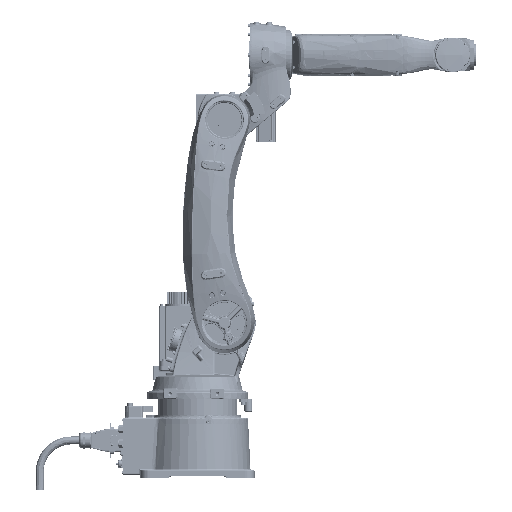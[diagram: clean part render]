
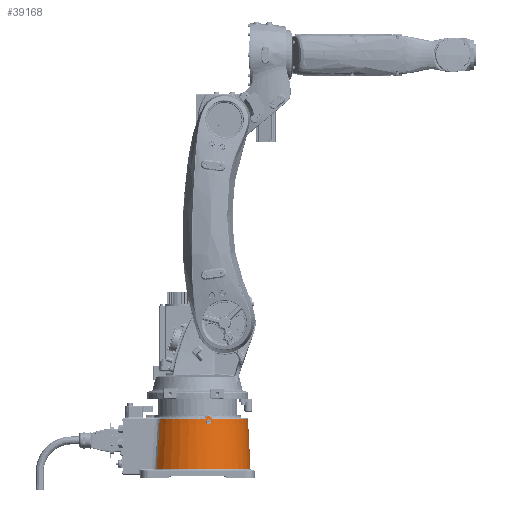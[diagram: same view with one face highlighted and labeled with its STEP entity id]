
A CAD part, front view. The second image highlights one B-rep face of the part: STEP entity #39168.
In plain terms, the highlighted toroidal (fillet/blend) face has major radius 2165 mm and minor radius 2005 mm.
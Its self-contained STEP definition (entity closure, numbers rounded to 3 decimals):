
#3922=TOROIDAL_SURFACE('',#149639,2165.,2005.);
#6012=B_SPLINE_CURVE_WITH_KNOTS('',3,(#209172,#209173,#209174,#209175,#209176,
#209177),.UNSPECIFIED.,.F.,.F.,(4,2,4),(0.,0.5,1.),.UNSPECIFIED.);
#6014=B_SPLINE_CURVE_WITH_KNOTS('',3,(#209215,#209216,#209217,#209218,#209219,
#209220,#209221,#209222,#209223,#209224),.UNSPECIFIED.,.F.,.F.,(4,2,2,2,
4),(0.,0.25,0.5,0.75,1.),.UNSPECIFIED.);
#6019=B_SPLINE_CURVE_WITH_KNOTS('',3,(#209318,#209319,#209320,#209321,#209322,
#209323,#209324,#209325),.UNSPECIFIED.,.F.,.F.,(4,2,2,4),(0.,0.5,0.75,1.),
 .UNSPECIFIED.);
#6046=B_SPLINE_CURVE_WITH_KNOTS('',3,(#210525,#210526,#210527,#210528),
 .UNSPECIFIED.,.F.,.F.,(4,4),(0.,1.),.UNSPECIFIED.);
#6047=B_SPLINE_CURVE_WITH_KNOTS('',3,(#210543,#210544,#210545,#210546),
 .UNSPECIFIED.,.F.,.F.,(4,4),(0.,1.),.UNSPECIFIED.);
#6050=B_SPLINE_CURVE_WITH_KNOTS('',3,(#210667,#210668,#210669,#210670),
 .UNSPECIFIED.,.F.,.F.,(4,4),(0.,1.),.UNSPECIFIED.);
#6052=B_SPLINE_CURVE_WITH_KNOTS('',3,(#210688,#210689,#210690,#210691),
 .UNSPECIFIED.,.F.,.F.,(4,4),(0.,1.),.UNSPECIFIED.);
#6054=B_SPLINE_CURVE_WITH_KNOTS('',3,(#210816,#210817,#210818,#210819,#210820,
#210821,#210822,#210823,#210824,#210825,#210826,#210827,#210828,#210829,
#210830,#210831,#210832,#210833),.UNSPECIFIED.,.T.,.F.,(2,2,2,2,2,2,2,2,
2,2,2),(-0.125,0.,0.125,0.25,0.375,0.5,0.625,0.75,0.875,1.,1.125),
 .UNSPECIFIED.);
#39168=ADVANCED_FACE('',(#50417,#50418),#3922,.F.);
#50417=FACE_BOUND('',#53197,.T.);
#50418=FACE_BOUND('',#53198,.T.);
#53197=EDGE_LOOP('',(#67164,#67165,#67166,#67167,#67168,#67169,#67170,#67171,
#67172,#67173));
#53198=EDGE_LOOP('',(#67174));
#67164=ORIENTED_EDGE('',*,*,#121506,.T.);
#67165=ORIENTED_EDGE('',*,*,#121512,.T.);
#67166=ORIENTED_EDGE('',*,*,#121785,.T.);
#67167=ORIENTED_EDGE('',*,*,#121765,.T.);
#67168=ORIENTED_EDGE('',*,*,#121767,.T.);
#67169=ORIENTED_EDGE('',*,*,#121771,.T.);
#67170=ORIENTED_EDGE('',*,*,#121758,.T.);
#67171=ORIENTED_EDGE('',*,*,#121760,.T.);
#67172=ORIENTED_EDGE('',*,*,#121786,.T.);
#67173=ORIENTED_EDGE('',*,*,#121502,.T.);
#67174=ORIENTED_EDGE('',*,*,#121814,.T.);
#107218=VERTEX_POINT('',#209178);
#107219=VERTEX_POINT('',#209179);
#107222=VERTEX_POINT('',#209214);
#107224=VERTEX_POINT('',#209317);
#107361=VERTEX_POINT('',#210492);
#107363=VERTEX_POINT('',#210524);
#107364=VERTEX_POINT('',#210542);
#107365=VERTEX_POINT('',#210612);
#107366=VERTEX_POINT('',#210666);
#107367=VERTEX_POINT('',#210687);
#107388=VERTEX_POINT('',#210834);
#121502=EDGE_CURVE('',#107218,#107219,#6012,.T.);
#121506=EDGE_CURVE('',#107219,#107222,#6014,.T.);
#121512=EDGE_CURVE('',#107222,#107224,#6019,.T.);
#121758=EDGE_CURVE('',#107361,#107363,#6046,.T.);
#121760=EDGE_CURVE('',#107363,#107364,#6047,.T.);
#121765=EDGE_CURVE('',#107365,#107366,#6050,.T.);
#121767=EDGE_CURVE('',#107366,#107367,#6052,.T.);
#121771=EDGE_CURVE('',#107367,#107361,#141475,.T.);
#121785=EDGE_CURVE('',#107224,#107365,#141483,.T.);
#121786=EDGE_CURVE('',#107364,#107218,#141484,.T.);
#121814=EDGE_CURVE('',#107388,#107388,#6054,.T.);
#141475=CIRCLE('',#149578,167.256);
#141483=CIRCLE('',#149594,160.056);
#141484=CIRCLE('',#149596,160.056);
#149578=AXIS2_PLACEMENT_3D('',#210730,#166978,#166979);
#149594=AXIS2_PLACEMENT_3D('',#210756,#167016,#167017);
#149596=AXIS2_PLACEMENT_3D('',#210758,#167020,#167021);
#149639=AXIS2_PLACEMENT_3D('',#210883,#167146,#167147);
#166978=DIRECTION('',(0.,0.,1.));
#166979=DIRECTION('',(1.,0.,0.));
#167016=DIRECTION('',(0.,0.,-1.));
#167017=DIRECTION('',(1.,0.,0.));
#167020=DIRECTION('',(0.,0.,-1.));
#167021=DIRECTION('',(1.,0.,0.));
#167146=DIRECTION('',(0.,0.,-1.));
#167147=DIRECTION('',(-1.,0.,0.));
#209172=CARTESIAN_POINT('',(47.792,-152.754,185.037));
#209173=CARTESIAN_POINT('',(46.996,-152.997,185.863));
#209174=CARTESIAN_POINT('',(46.031,-153.285,186.547));
#209175=CARTESIAN_POINT('',(44.448,-153.74,188.244));
#209176=CARTESIAN_POINT('',(43.815,-153.914,189.244));
#209177=CARTESIAN_POINT('',(43.458,-154.009,190.377));
#209178=CARTESIAN_POINT('',(47.792,-152.754,185.037));
#209179=CARTESIAN_POINT('',(43.458,-154.009,190.377));
#209214=CARTESIAN_POINT('',(28.037,-157.546,190.829));
#209215=CARTESIAN_POINT('',(43.458,-154.009,190.377));
#209216=CARTESIAN_POINT('',(42.943,-154.146,192.009));
#209217=CARTESIAN_POINT('',(41.904,-154.432,193.418));
#209218=CARTESIAN_POINT('',(39.236,-155.126,195.385));
#209219=CARTESIAN_POINT('',(37.589,-155.535,195.948));
#209220=CARTESIAN_POINT('',(34.293,-156.295,196.055));
#209221=CARTESIAN_POINT('',(32.596,-156.656,195.598));
#209222=CARTESIAN_POINT('',(29.787,-157.219,193.79));
#209223=CARTESIAN_POINT('',(28.651,-157.429,192.428));
#209224=CARTESIAN_POINT('',(28.037,-157.546,190.829));
#209317=CARTESIAN_POINT('',(20.92,-158.683,185.037));
#209318=CARTESIAN_POINT('',(28.037,-157.546,190.829));
#209319=CARTESIAN_POINT('',(27.467,-157.654,189.344));
#209320=CARTESIAN_POINT('',(26.34,-157.858,188.171));
#209321=CARTESIAN_POINT('',(24.343,-158.182,186.919));
#209322=CARTESIAN_POINT('',(23.634,-158.292,186.586));
#209323=CARTESIAN_POINT('',(22.208,-158.503,185.931));
#209324=CARTESIAN_POINT('',(21.48,-158.605,185.581));
#209325=CARTESIAN_POINT('',(20.92,-158.683,185.037));
#210492=CARTESIAN_POINT('',(-128.365,107.225,29.575));
#210524=CARTESIAN_POINT('',(-119.33,106.671,184.849));
#210525=CARTESIAN_POINT('',(-128.365,107.225,29.575));
#210526=CARTESIAN_POINT('',(-122.902,106.899,81.168));
#210527=CARTESIAN_POINT('',(-119.828,106.703,132.967));
#210528=CARTESIAN_POINT('',(-119.33,106.671,184.849));
#210542=CARTESIAN_POINT('',(-119.328,106.671,185.037));
#210543=CARTESIAN_POINT('',(-119.33,106.671,184.849));
#210544=CARTESIAN_POINT('',(-119.329,106.671,184.912));
#210545=CARTESIAN_POINT('',(-119.329,106.671,184.974));
#210546=CARTESIAN_POINT('',(-119.328,106.671,185.037));
#210612=CARTESIAN_POINT('',(-119.328,-106.671,185.037));
#210666=CARTESIAN_POINT('',(-119.33,-106.671,184.849));
#210667=CARTESIAN_POINT('',(-119.328,-106.671,185.037));
#210668=CARTESIAN_POINT('',(-119.329,-106.671,184.974));
#210669=CARTESIAN_POINT('',(-119.329,-106.671,184.912));
#210670=CARTESIAN_POINT('',(-119.33,-106.671,184.849));
#210687=CARTESIAN_POINT('',(-128.365,-107.225,29.575));
#210688=CARTESIAN_POINT('',(-119.33,-106.671,184.849));
#210689=CARTESIAN_POINT('',(-119.828,-106.703,132.968));
#210690=CARTESIAN_POINT('',(-122.902,-106.899,81.167));
#210691=CARTESIAN_POINT('',(-128.365,-107.225,29.575));
#210730=CARTESIAN_POINT('',(0.,0.,29.575));
#210756=CARTESIAN_POINT('',(0.,0.,185.037));
#210758=CARTESIAN_POINT('',(0.,0.,185.037));
#210816=CARTESIAN_POINT('',(36.333,-156.083,168.839));
#210817=CARTESIAN_POINT('',(32.168,-156.988,169.231));
#210818=CARTESIAN_POINT('',(30.188,-157.356,170.272));
#210819=CARTESIAN_POINT('',(27.501,-157.802,173.508));
#210820=CARTESIAN_POINT('',(26.828,-157.883,175.702));
#210821=CARTESIAN_POINT('',(27.253,-157.763,179.906));
#210822=CARTESIAN_POINT('',(28.337,-157.562,181.905));
#210823=CARTESIAN_POINT('',(31.624,-156.913,184.554));
#210824=CARTESIAN_POINT('',(33.763,-156.467,185.168));
#210825=CARTESIAN_POINT('',(37.861,-155.53,184.75));
#210826=CARTESIAN_POINT('',(39.833,-155.036,183.707));
#210827=CARTESIAN_POINT('',(42.49,-154.359,180.498));
#210828=CARTESIAN_POINT('',(43.174,-154.186,178.323));
#210829=CARTESIAN_POINT('',(42.746,-154.357,174.075));
#210830=CARTESIAN_POINT('',(41.652,-154.693,172.098));
#210831=CARTESIAN_POINT('',(38.442,-155.561,169.488));
#210832=CARTESIAN_POINT('',(36.333,-156.083,168.839));
#210833=CARTESIAN_POINT('',(32.168,-156.988,169.231));
#210834=CARTESIAN_POINT('',(34.251,-156.536,169.035));
#210883=CARTESIAN_POINT('',(0.,0.,200.));
